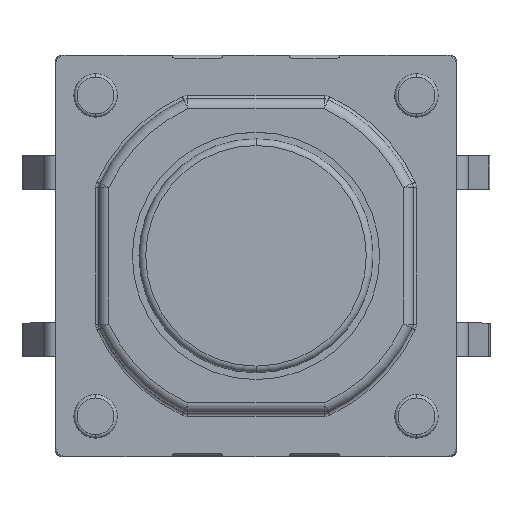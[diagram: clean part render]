
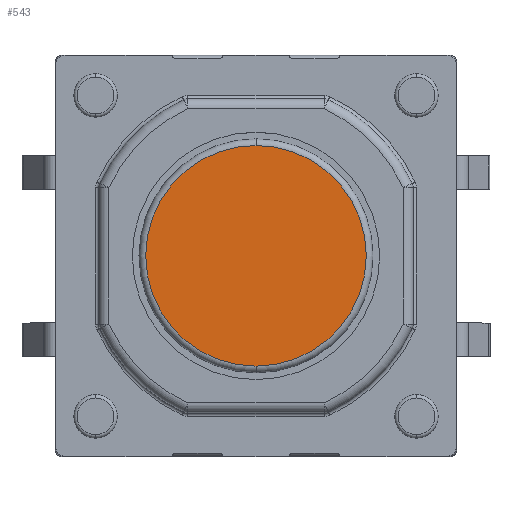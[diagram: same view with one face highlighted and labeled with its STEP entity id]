
A CAD part, top view. The second image highlights one B-rep face of the part: STEP entity #543.
In plain terms, the highlighted planar face has unit normal (0, 0, 1) as drawn and (0, 1, 0) by its records, which use the part's own axes.
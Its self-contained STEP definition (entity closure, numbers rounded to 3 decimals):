
#543 = ADVANCED_FACE ( 'NONE', ( #3874 ), #3917, .T. ) ;
#544 = EDGE_LOOP ( 'NONE', ( #545, #595 ) ) ;
#545 = ORIENTED_EDGE ( 'NONE', *, *, #646, .T. ) ;
#560 = VERTEX_POINT ( 'NONE', #3903 ) ;
#595 = ORIENTED_EDGE ( 'NONE', *, *, #596, .T. ) ;
#596 = EDGE_CURVE ( 'NONE', #633, #560, #3964, .T. ) ;
#633 = VERTEX_POINT ( 'NONE', #4064 ) ;
#646 = EDGE_CURVE ( 'NONE', #560, #633, #4081, .T. ) ;
#3323 = CARTESIAN_POINT ( 'NONE',  ( 0., 4.3, 0. ) ) ;
#3583 = AXIS2_PLACEMENT_3D ( 'NONE', #3323, #3834, #3839 ) ;
#3834 = DIRECTION ( 'NONE',  ( 0., 1., 0. ) ) ;
#3839 = DIRECTION ( 'NONE',  ( 0., 0., 1. ) ) ;
#3874 = FACE_OUTER_BOUND ( 'NONE', #544, .T. ) ;
#3903 = CARTESIAN_POINT ( 'NONE',  ( 0., 4.3, 3.3 ) ) ;
#3913 = DIRECTION ( 'NONE',  ( 0., 0., 1. ) ) ;
#3914 = DIRECTION ( 'NONE',  ( 0., 1., 0. ) ) ;
#3915 = CARTESIAN_POINT ( 'NONE',  ( 3.5, 4.3, 0. ) ) ;
#3916 = AXIS2_PLACEMENT_3D ( 'NONE', #3915, #3914, #3913 ) ;
#3917 = PLANE ( 'NONE',  #3916 ) ;
#3960 = DIRECTION ( 'NONE',  ( 0., 0., 1. ) ) ;
#3961 = DIRECTION ( 'NONE',  ( 0., 1., 0. ) ) ;
#3962 = CARTESIAN_POINT ( 'NONE',  ( 0., 4.3, 0. ) ) ;
#3963 = AXIS2_PLACEMENT_3D ( 'NONE', #3962, #3961, #3960 ) ;
#3964 = CIRCLE ( 'NONE', #3963, 3.3 ) ;
#4064 = CARTESIAN_POINT ( 'NONE',  ( 0., 4.3, -3.3 ) ) ;
#4081 = CIRCLE ( 'NONE', #3583, 3.3 ) ;
